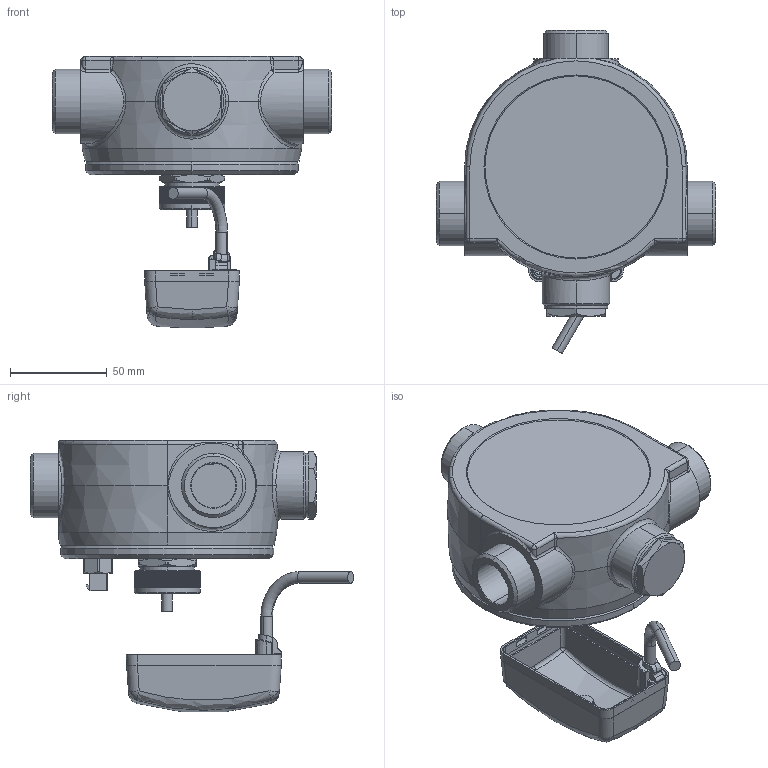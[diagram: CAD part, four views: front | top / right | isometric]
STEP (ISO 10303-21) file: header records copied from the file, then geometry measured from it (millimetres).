
FILE_DESCRIPTION (( 'STEP AP214' ), '1' );
FILE_NAME ('22TX93E37ELECV3.STEP', '2020-02-03T12:49:08', ( '' ), ( '' ), 'SwSTEP 2.0', 'SolidWorks 2017', '' );
FILE_SCHEMA (( 'AUTOMOTIVE_DESIGN' ));
Length unit declared in the file: millimetre
Products named in the file (30): 22019082_enveloppe; 1788016_asm_enveloppe; 22091030_22010427_22010427M_22010497M; 1589063_STRAIN_RELIEF; 1589063_ASM_enveloppe; 22018970; 22100284; 22090225_22108311PE; 1487128; 22018887; 04082016_011; 148831500104; 22TX93E37EV3_Enveloppe; 22100282_22100282C; 22014508; 1589063_SUB_ASM; 22016518; 22018884; 22012565; 148702800002; 22014885; 04082016_012; 22113411; 22108612; 22113429 22113439 22113449 22113459 22113469_22113439; 028876700001_courb‚; 22TX93E37ELECV3; 22080341_Enveloppe; 08082016_003; 22108337
Assembly tree (33 placements, depth 6):
  22TX93E37ELECV3
    22TX93E37EV3_Enveloppe
      22090225_22108311PE
      22080341_Enveloppe
        22091030_22010427_22010427M_22010497M
        22113429 22113439 22113449 22113459 22113469_22113439
        22108337
        22012565  x2
        22014885  x2
        22108612
        22018970  x2
        22016518
        22014508
      22113411  x2
      22100284
      22100282_22100282C
    22018884
      22018887
        04082016_011
        04082016_012
        08082016_003
    22019082_enveloppe
      1788016_asm_enveloppe
        148702800002
        148831500104
        1589063_ASM_enveloppe
          1589063_SUB_ASM
            1589063_STRAIN_RELIEF
          028876700001_courb‚
        1487128
Bounding box: 144 x 166.7 x 139.86 mm (x, y, z)
Volume: 375522.4 mm3; surface area: 182631.8 mm2
Topology: 24 solids, 24 shells, 1790 faces, 4421 edges, 2649 vertices
Faces by surface type: plane 668, cylinder 518, cone 215, torus 180, bspline 164, sphere 45
Entity records: 99025 total; most frequent: CARTESIAN_POINT 43357, ORIENTED_EDGE 11818, DIRECTION 9912, EDGE_CURVE 5909, AXIS2_PLACEMENT_3D 3864, VERTEX_POINT 3703, EDGE_LOOP 2454, FACE_OUTER_BOUND 2325
